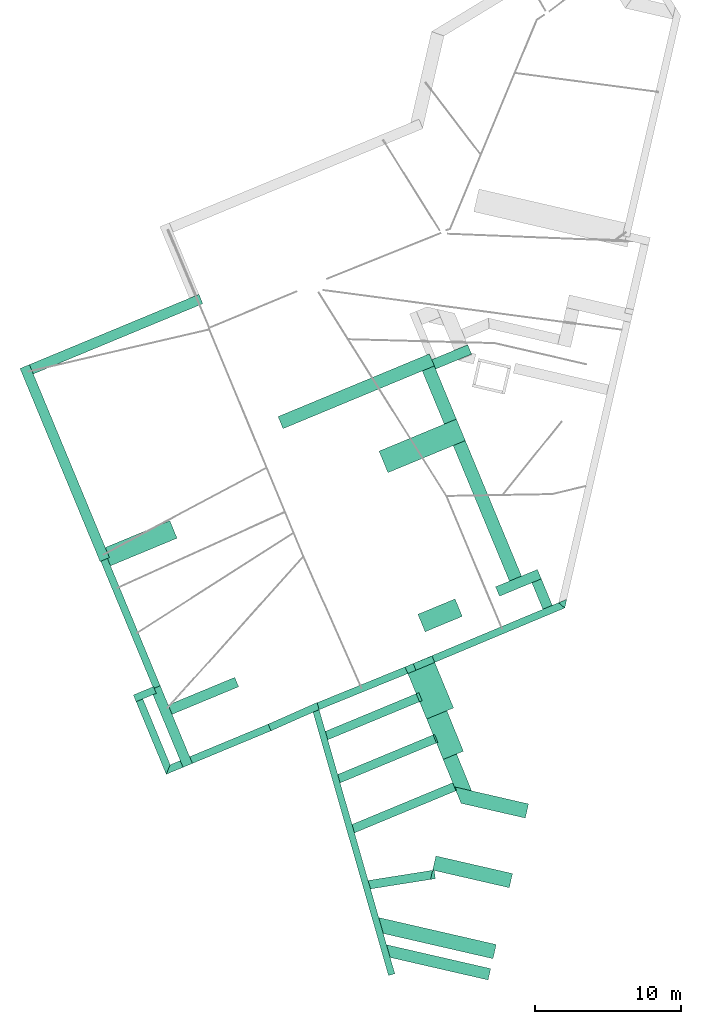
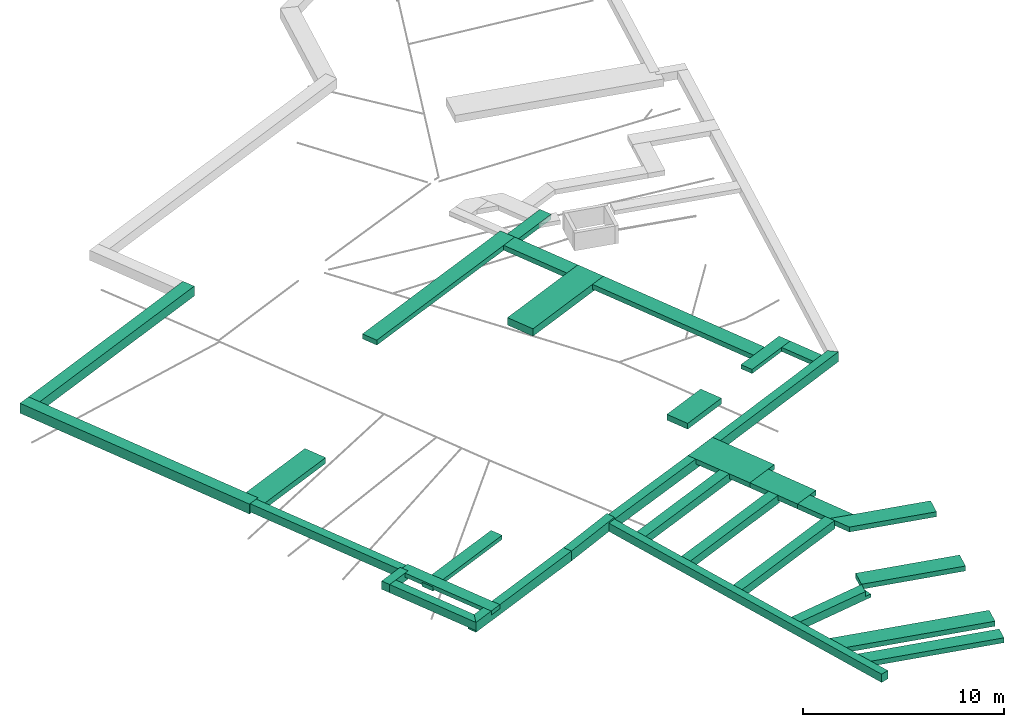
# One storey, part 4 of 6: 31 flow terminals.
"""IFC2X3 building model written with IfcOpenShell, lengths in metres."""

from ifc_helpers import new_model, entity, si_unit, converted_unit, derived_unit, money_unit, direction, frame, origin_with_axes, place, context, subcontext, project, spatial, faceted_brep, material, type_object, element, save


model = new_model("IFC2X3")

# Units and contexts
model_context = context("Model", 3, precision=1e-05, world=origin_with_axes(), true_north=direction((0.0, 1.0)))
body_context = subcontext(model_context, "Body", "Model", "MODEL_VIEW")
ifc_project = project(units=[si_unit("LENGTHUNIT", "METRE"), si_unit("AREAUNIT", "SQUARE_METRE"), si_unit("VOLUMEUNIT", "CUBIC_METRE"), converted_unit("PLANEANGLEUNIT", "DEGREE", entity("IfcPlaneAngleMeasure", 0.0174532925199), si_unit("PLANEANGLEUNIT", "RADIAN"), dimensions=[0, 0, 0, 0, 0, 0, 0]), si_unit("SOLIDANGLEUNIT", "STERADIAN"), money_unit("EUR"), converted_unit("TIMEUNIT", "Year", entity("IfcTimeMeasure", 31556926.0), si_unit("TIMEUNIT", "SECOND"), dimensions=[0, 0, 1, 0, 0, 0, 0]), si_unit("MASSUNIT", "GRAM", prefix="KILO"), si_unit("THERMODYNAMICTEMPERATUREUNIT", "DEGREE_CELSIUS"), si_unit("LUMINOUSINTENSITYUNIT", "LUMEN"), si_unit("ENERGYUNIT", "JOULE", prefix="MEGA"), derived_unit("THERMALCONDUCTANCEUNIT", [(si_unit("POWERUNIT", "WATT"), 1), (si_unit("LENGTHUNIT", "METRE"), -1), (si_unit("THERMODYNAMICTEMPERATUREUNIT", "KELVIN"), -1)]), derived_unit("SPECIFICHEATCAPACITYUNIT", [(si_unit("ENERGYUNIT", "JOULE"), 1), (si_unit("MASSUNIT", "GRAM", prefix="KILO"), -1), (si_unit("THERMODYNAMICTEMPERATUREUNIT", "KELVIN"), -1)]), derived_unit("MASSDENSITYUNIT", [(si_unit("MASSUNIT", "GRAM", prefix="KILO"), 1), (si_unit("VOLUMEUNIT", "CUBIC_METRE"), -1)])], contexts=[model_context])

# Site, building, storey
site_placement = place(None, origin_with_axes())
site = spatial("IfcSite", under=ifc_project, at=site_placement, Name="Site", CompositionType="ELEMENT")
building_placement = place(site_placement, origin_with_axes())
building = spatial("IfcBuilding", under=site, at=building_placement, Name="Bâtiment", CompositionType="ELEMENT")
storey_placement = place(building_placement, frame((0.0, 0.0, -5.7), z_axis=(0.0, 0.0, 1.0), x_axis=(1.0, 0.0, 0.0)))
storey = spatial("IfcBuildingStorey", under=building, at=storey_placement, Name="-2. Etage", CompositionType="ELEMENT", Elevation=-5.7)

# Flow terminals
ifc_material = material(Name="Béton")
electric_appliance_type_1 = type_object("IfcElectricApplianceType", Name="Poutre 1", PredefinedType="WASHINGMACHINE")
flow_terminal_1_placement = place(storey_placement, frame((-19.9392793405, -30.3781514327, 1.95), z_axis=(0.0, 0.0, 1.0), x_axis=(0.923701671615, 0.383112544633, 0.0)))
element("IfcFlowTerminal", 1, at=flow_terminal_1_placement, inside=storey, type_object=electric_appliance_type_1, material=ifc_material, Name="CERES_POUTRE_BETON:(60x50T)", context=body_context, shape_type="Brep", body=[
    faceted_brep([(7.16922511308, -0.0637426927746, 0.0), (7.16922511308, 0.536257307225, 0.0), (7.16922511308, 0.536257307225, 0.2), (7.16922511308, -0.0637426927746, 0.2), (0.153686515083, -0.0637426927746, 0.0), (0.222416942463, 0.536257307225, 0.0), (0.222416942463, 0.536257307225, 0.5), (6.97353076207, 0.536257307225, 0.5), (6.97353076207, 0.536257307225, 0.2), (6.97353076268, -0.0637426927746, 0.2), (6.97353076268, -0.0637426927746, 0.5), (0.153686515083, -0.0637426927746, 0.5)], [[[0, 1, 2, 3]], [[1, 0, 4, 5]], [[2, 1, 5, 6, 7, 8]], [[8, 9, 3, 2]], [[0, 3, 9, 10, 11, 4]], [[11, 6, 5, 4]], [[10, 7, 6, 11]], [[9, 8, 7, 10]]]),
])
electric_appliance_type_2 = type_object("IfcElectricApplianceType", Name="Poutre 2", PredefinedType="WASHINGMACHINE")
flow_terminal_2_placement = place(storey_placement, frame((-19.0911174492, -33.3376369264, 1.95), z_axis=(0.0, 0.0, 1.0), x_axis=(0.923701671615, 0.383112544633, 0.0)))
element("IfcFlowTerminal", 2, at=flow_terminal_2_placement, inside=storey, type_object=electric_appliance_type_2, material=ifc_material, Name="CERES_POUTRE_BETON:(60x50T)", context=body_context, shape_type="Brep", body=[
    faceted_brep([(7.42095446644, -0.0637426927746, 0.0), (7.42095446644, 0.536257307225, 0.0), (7.42095446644, 0.536257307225, 0.2), (7.42095446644, -0.0637426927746, 0.2), (0.153686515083, -0.0637426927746, 0.0), (0.222416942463, 0.536257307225, 0.0), (0.222416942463, 0.536257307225, 0.5), (7.3168736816, 0.536257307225, 0.5), (7.3168736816, 0.536257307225, 0.2), (7.31329162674, -0.0637426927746, 0.2), (7.31329162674, -0.0637426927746, 0.5), (0.153686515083, -0.0637426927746, 0.5)], [[[0, 1, 2, 3]], [[1, 0, 4, 5]], [[2, 1, 5, 6, 7, 8]], [[8, 9, 3, 2]], [[0, 3, 9, 10, 11, 4]], [[11, 6, 5, 4]], [[10, 7, 6, 11]], [[9, 8, 7, 10]]]),
])
electric_appliance_type_3 = type_object("IfcElectricApplianceType", Name="Poutre 3", PredefinedType="WASHINGMACHINE")
flow_terminal_3_placement = place(storey_placement, frame((-18.1073248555, -36.7703777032, 1.95), z_axis=(0.0, 0.0, 1.0), x_axis=(0.923701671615, 0.383112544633, 0.0)))
element("IfcFlowTerminal", 3, at=flow_terminal_3_placement, inside=storey, type_object=electric_appliance_type_3, material=ifc_material, Name="CERES_POUTRE_BETON:(60x50T)", context=body_context, shape_type="Brep", body=[
    faceted_brep([(7.7457537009, -0.0637426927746, 0.0), (7.7457537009, 0.536257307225, 0.0), (7.7457537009, 0.536257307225, 0.2), (7.7457537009, -0.0637426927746, 0.2), (0.153686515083, -0.0637426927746, 0.0), (0.222416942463, 0.536257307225, 0.0), (0.222416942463, 0.536257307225, 0.5), (7.70208858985, 0.536257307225, 0.5), (7.70208858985, 0.536257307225, 0.2), (7.69850653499, -0.0637426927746, 0.2), (7.70026362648, 0.230572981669, 0.2), (7.69850653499, -0.0637426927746, 0.5), (0.153686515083, -0.0637426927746, 0.5), (7.70026362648, 0.230572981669, 0.5)], [[[0, 1, 2, 3]], [[1, 0, 4, 5]], [[2, 1, 5, 6, 7, 8]], [[9, 3, 2, 8, 10]], [[0, 3, 9, 11, 12, 4]], [[12, 6, 5, 4]], [[11, 13, 7, 6, 12]], [[11, 9, 10, 8, 7, 13]]]),
])
electric_appliance_type_4 = type_object("IfcElectricApplianceType", Name="Poutre 4", PredefinedType="WASHINGMACHINE")
flow_terminal_4_placement = place(storey_placement, frame((-17.0043960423, -40.6193691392, 1.95), z_axis=(0.0, 0.0, 1.0), x_axis=(0.987688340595, 0.15643446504, 0.0)))
element("IfcFlowTerminal", 4, at=flow_terminal_4_placement, inside=storey, type_object=electric_appliance_type_4, material=ifc_material, Name="CERES_POUTRE_BETON:(60x50T)", context=body_context, shape_type="Brep", body=[
    faceted_brep([(4.67874512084, -0.0260523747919, 0.0), (4.67874512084, 0.573947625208, 0.0), (4.67874512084, 0.573947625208, 0.2), (4.67874512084, -0.0260523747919, 0.2), (0.164488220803, -0.0260523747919, 0.0), (0.0909043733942, 0.573947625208, 0.0), (0.0909043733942, 0.573947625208, 0.5), (4.57746969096, 0.573947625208, 0.5), (4.57746969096, 0.573947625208, 0.2), (4.33584175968, -0.0260523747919, 0.2), (4.33584175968, -0.0260523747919, 0.5), (0.164488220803, -0.0260523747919, 0.5)], [[[0, 1, 2, 3]], [[1, 0, 4, 5]], [[1, 5, 6, 7, 8, 2]], [[8, 9, 3, 2]], [[4, 0, 3, 9, 10, 11]], [[11, 6, 5, 4]], [[6, 11, 10, 7]], [[9, 8, 7, 10]]]),
])
electric_appliance_type_5 = type_object("IfcElectricApplianceType", Name="IFC Footing Extruded", PredefinedType="WASHINGMACHINE")
flow_terminal_5_placement = place(storey_placement, frame((0.0, 0.0, 2.45), z_axis=(0.0, 0.0, 1.0), x_axis=(1.0, 0.0, 0.0)))
element("IfcFlowTerminal", 5, at=flow_terminal_5_placement, inside=storey, type_object=electric_appliance_type_5, material=ifc_material, Name="Semelle filante:(130x35T)", context=body_context, shape_type="Brep", body=[
    faceted_brep([(-30.6190819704, -15.3329198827, -0.35), (-35.0528499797, -17.171860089, -0.35), (-35.0528499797, -17.171860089, 0.0), (-30.6190819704, -15.3329198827, 0.0), (-30.1210356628, -16.533732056, -0.35), (-34.6933589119, -18.4301391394, -0.35), (-34.9040708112, -17.9221032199, -0.35), (-34.7655155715, -17.8646363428, -0.35), (-34.7655155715, -17.8646363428, 0.0), (-34.9040708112, -17.9221032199, 0.0), (-34.6933589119, -18.4301391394, 0.0), (-30.1210356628, -16.533732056, 0.0)], [[[0, 1, 2, 3]], [[0, 4, 5, 6, 7, 1]], [[1, 7, 8, 2]], [[3, 2, 8, 9, 10, 11]], [[4, 0, 3, 11]], [[5, 4, 11, 10]], [[6, 5, 10, 9]], [[7, 6, 9, 8]]]),
])
flow_terminal_6_placement = place(storey_placement, frame((0.0, 0.0, 2.45), z_axis=(0.0, 0.0, 1.0), x_axis=(1.0, 0.0, 0.0)))
element("IfcFlowTerminal", 6, at=flow_terminal_6_placement, inside=storey, type_object=electric_appliance_type_5, material=ifc_material, Name="Semelle filante:(130x35T)", context=body_context, shape_type="Brep", body=[
    faceted_brep([(-11.0343796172, -20.7009883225, -0.35), (-13.5850973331, -21.758918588, -0.35), (-13.5850973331, -21.758918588, 0.0), (-11.0343796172, -20.7009883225, 0.0), (-10.5363333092, -21.9018004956, -0.35), (-13.0870510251, -22.9597307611, -0.35), (-13.0870510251, -22.9597307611, 0.0), (-10.5363333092, -21.9018004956, 0.0)], [[[0, 1, 2, 3]], [[0, 4, 5, 1]], [[1, 5, 6, 2]], [[3, 2, 6, 7]], [[4, 0, 3, 7]], [[5, 4, 7, 6]]]),
])
flow_terminal_7_placement = place(storey_placement, frame((0.0, 0.0, 2.45), z_axis=(0.0, 0.0, 1.0), x_axis=(1.0, 0.0, 0.0)))
element("IfcFlowTerminal", 7, at=flow_terminal_7_placement, inside=storey, type_object=electric_appliance_type_5, material=ifc_material, Name="Semelle filante:(160x45T)", context=body_context, shape_type="Brep", body=[
    faceted_brep([(-10.9401381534, -8.35095761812, -0.45), (-16.2535940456, -10.5547553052, -0.45), (-16.2535940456, -10.5547553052, 0.0), (-10.9401381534, -8.35095761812, 0.0), (-10.3271580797, -9.82888029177, -0.45), (-15.6406139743, -12.0326779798, -0.45), (-15.6406139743, -12.0326779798, 0.0), (-10.3271580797, -9.82888029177, 0.0)], [[[0, 1, 2, 3]], [[0, 4, 5, 1]], [[1, 5, 6, 2]], [[3, 2, 6, 7]], [[4, 0, 3, 7]], [[5, 4, 7, 6]]]),
])
flow_terminal_8_placement = place(storey_placement, frame((0.0, 0.0, 2.45), z_axis=(0.0, 0.0, 1.0), x_axis=(1.0, 0.0, 0.0)))
element("IfcFlowTerminal", 8, at=flow_terminal_8_placement, inside=storey, type_object=electric_appliance_type_5, material=ifc_material, Name="Semelle filante:(70x25T)", context=body_context, shape_type="Brep", body=[
    faceted_brep([(-31.1095496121, -28.8980047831, -0.25), (-25.8906351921, -26.7334189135, -0.25), (-25.8906351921, -26.7334189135, 0.0), (-31.1095496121, -28.8980047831, 0.0), (-31.3777283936, -28.2514136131, -0.25), (-26.1588139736, -26.0868277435, -0.25), (-26.1588139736, -26.0868277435, 0.0), (-31.3777283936, -28.2514136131, 0.0)], [[[0, 1, 2, 3]], [[0, 4, 5, 1]], [[1, 5, 6, 2]], [[3, 2, 6, 7]], [[4, 0, 3, 7]], [[5, 4, 7, 6]]]),
])
flow_terminal_9_placement = place(storey_placement, frame((0.0, 0.0, 2.45), z_axis=(0.0, 0.0, 1.0), x_axis=(1.0, 0.0, 0.0)))
element("IfcFlowTerminal", 9, at=flow_terminal_9_placement, inside=storey, type_object=electric_appliance_type_5, material=ifc_material, Name="Semelle filante:(70x25T)", context=body_context, shape_type="Brep", body=[
    faceted_brep([(-5.37666552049, -18.6791870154, -0.25), (-8.25111690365, -19.8713883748, -0.25), (-8.25111690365, -19.8713883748, 0.0), (-5.37666552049, -18.6791870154, 0.0), (-5.10848673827, -19.3257781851, -0.25), (-7.98293812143, -20.5179795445, -0.25), (-7.98293812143, -20.5179795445, 0.0), (-5.10848673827, -19.3257781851, 0.0)], [[[0, 1, 2, 3]], [[0, 4, 5, 1]], [[1, 5, 6, 2]], [[3, 2, 6, 7]], [[4, 0, 3, 7]], [[5, 4, 7, 6]]]),
])
flow_terminal_10_placement = place(storey_placement, frame((0.0, 0.0, 2.45), z_axis=(0.0, 0.0, 1.0), x_axis=(1.0, 0.0, 0.0)))
element("IfcFlowTerminal", 10, at=flow_terminal_10_placement, inside=storey, type_object=electric_appliance_type_5, material=ifc_material, Name="Semelle filante:(70x25T)", context=body_context, shape_type="Brep", body=[
    faceted_brep([(-4.35481617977, -21.1429119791, -0.25), (-5.10848673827, -19.3257781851, -0.25), (-5.10848673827, -19.3257781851, 0.0), (-4.35481617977, -21.1429119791, 0.0), (-5.00058045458, -21.4130844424, -0.25), (-5.75507790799, -19.5939569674, -0.25), (-5.75507790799, -19.5939569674, 0.0), (-5.00058045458, -21.4130844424, 0.0)], [[[0, 1, 2, 3]], [[0, 4, 5, 1]], [[1, 5, 6, 2]], [[3, 2, 6, 7]], [[4, 0, 3, 7]], [[5, 4, 7, 6]]]),
])
flow_terminal_11_placement = place(storey_placement, frame((0.0, 0.0, 2.45), z_axis=(0.0, 0.0, 1.0), x_axis=(1.0, 0.0, 0.0)))
element("IfcFlowTerminal", 11, at=flow_terminal_11_placement, inside=storey, type_object=electric_appliance_type_5, material=ifc_material, Name="Semelle filante:(70x30T)", context=body_context, shape_type="Brep", body=[
    faceted_brep([(-12.6325796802, -4.27040457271, -0.3), (-12.364400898, -4.91699574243, -0.3), (-12.364400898, -4.91699574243, 0.0), (-12.6325796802, -4.27040457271, 0.0), (-10.1662962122, -3.24749407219, -0.3), (-9.89811743, -3.89408524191, -0.3), (-9.89811743, -3.89408524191, 0.0), (-10.1662962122, -3.24749407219, 0.0)], [[[0, 1, 2, 3]], [[0, 4, 5, 1]], [[1, 5, 6, 2]], [[3, 2, 6, 7]], [[4, 0, 3, 7]], [[5, 4, 7, 6]]]),
])
flow_terminal_12_placement = place(storey_placement, frame((0.0, 0.0, 2.45), z_axis=(0.0, 0.0, 1.0), x_axis=(1.0, 0.0, 0.0)))
element("IfcFlowTerminal", 12, at=flow_terminal_12_placement, inside=storey, type_object=electric_appliance_type_5, material=ifc_material, Name="Semelle filante:(90x30T)", context=body_context, shape_type="Brep", body=[
    faceted_brep([(-12.7982340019, -3.87100451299, -0.3), (-23.189877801, -8.18102065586, -0.3), (-23.189877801, -8.18102065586, 0.0), (-12.7982340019, -3.87100451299, 0.0), (-12.4534327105, -4.70233601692, -0.3), (-22.8450765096, -9.0123521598, -0.3), (-22.8450765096, -9.0123521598, 0.0), (-12.4534327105, -4.70233601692, 0.0)], [[[0, 1, 2, 3]], [[0, 4, 5, 1]], [[1, 5, 6, 2]], [[3, 2, 6, 7]], [[4, 0, 3, 7]], [[5, 4, 7, 6]]]),
])
flow_terminal_13_placement = place(storey_placement, frame((0.0, 0.0, 2.45), z_axis=(0.0, 0.0, 1.0), x_axis=(1.0, 0.0, 0.0)))
element("IfcFlowTerminal", 13, at=flow_terminal_13_placement, inside=storey, type_object=electric_appliance_type_5, material=ifc_material, Name="Semelle filante:(100x30T)", context=body_context, shape_type="Brep", body=[
    faceted_brep([(-10.6212829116, -34.739393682, -0.3), (-6.20942786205, -35.7527043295, -0.3), (-6.20942786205, -35.7527043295, 0.0), (-10.6212829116, -34.739393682, 0.0), (-10.9717808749, -33.8798625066, -0.3), (-11.0829138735, -33.6073294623, -0.3), (-9.89137039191, -33.8810020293, -0.3), (-5.98557727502, -34.7780808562, -0.3), (-5.98557727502, -34.7780808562, 0.0), (-9.89137039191, -33.8810020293, 0.0), (-11.0829138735, -33.6073294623, 0.0), (-10.9717808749, -33.8798625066, 0.0)], [[[0, 1, 2, 3]], [[0, 4, 5, 6, 7, 1]], [[1, 7, 8, 2]], [[3, 2, 8, 9, 10, 11]], [[4, 0, 3, 11]], [[5, 4, 11, 10]], [[6, 5, 10, 9]], [[7, 6, 9, 8]]]),
])
flow_terminal_14_placement = place(storey_placement, frame((0.0, 0.0, 2.45), z_axis=(0.0, 0.0, 1.0), x_axis=(1.0, 0.0, 0.0)))
element("IfcFlowTerminal", 14, at=flow_terminal_14_placement, inside=storey, type_object=electric_appliance_type_5, material=ifc_material, Name="Semelle filante:(100x30T)", context=body_context, shape_type="Brep", body=[
    faceted_brep([(-7.08437790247, -39.5621508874, -0.3), (-12.3472836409, -38.3533717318, -0.3), (-12.3472836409, -38.3533717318, 0.0), (-7.08437790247, -39.5621508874, 0.0), (-7.3082284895, -40.5367743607, -0.3), (-12.571134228, -39.3279952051, -0.3), (-12.571134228, -39.3279952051, 0.0), (-7.3082284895, -40.5367743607, 0.0)], [[[0, 1, 2, 3]], [[0, 4, 5, 1]], [[1, 5, 6, 2]], [[3, 2, 6, 7]], [[4, 0, 3, 7]], [[5, 4, 7, 6]]]),
])
flow_terminal_15_placement = place(storey_placement, frame((0.0, 0.0, 2.45), z_axis=(0.0, 0.0, 1.0), x_axis=(1.0, 0.0, 0.0)))
element("IfcFlowTerminal", 15, at=flow_terminal_15_placement, inside=storey, type_object=electric_appliance_type_5, material=ifc_material, Name="Semelle filante:(100x30T)", context=body_context, shape_type="Brep", body=[
    faceted_brep([(-8.20363084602, -44.4352682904, -0.3), (-12.4919131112, -43.4503397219, -0.3), (-12.4919131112, -43.4503397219, 0.0), (-8.20363084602, -44.4352682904, 0.0), (-8.42748143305, -45.4098917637, -0.3), (-15.9608102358, -43.6796440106, -0.3), (-16.2755828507, -42.5813100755, -0.3), (-13.4665365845, -43.2264891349, -0.3), (-13.4665365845, -43.2264891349, 0.0), (-16.2755828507, -42.5813100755, 0.0), (-15.9608102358, -43.6796440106, 0.0), (-8.42748143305, -45.4098917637, 0.0)], [[[0, 1, 2, 3]], [[0, 4, 5, 6, 7, 1]], [[1, 7, 8, 2]], [[3, 2, 8, 9, 10, 11]], [[4, 0, 3, 11]], [[5, 4, 11, 10]], [[6, 5, 10, 9]], [[7, 6, 9, 8]]]),
])
flow_terminal_16_placement = place(storey_placement, frame((0.0, 0.0, 2.45), z_axis=(0.0, 0.0, 1.0), x_axis=(1.0, 0.0, 0.0)))
element("IfcFlowTerminal", 16, at=flow_terminal_16_placement, inside=storey, type_object=electric_appliance_type_5, material=ifc_material, Name="Semelle filante:(50x50T) ex", context=body_context, shape_type="Brep", body=[
    faceted_brep([(-35.3659216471, -18.1136594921, -0.5), (-31.7391287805, -26.8580211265, -0.5), (-31.7391287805, -26.8580211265, 0.0), (-35.3659216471, -18.1136594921, 0.0), (-34.9040708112, -17.9221032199, -0.5), (-31.2772779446, -26.6664648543, -0.5), (-31.2772779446, -26.6664648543, 0.0), (-34.9040708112, -17.9221032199, 0.0)], [[[0, 1, 2, 3]], [[0, 4, 5, 1]], [[1, 5, 6, 2]], [[3, 2, 6, 7]], [[4, 0, 3, 7]], [[5, 4, 7, 6]]]),
])
flow_terminal_17_placement = place(storey_placement, frame((0.0, 0.0, 2.45), z_axis=(0.0, 0.0, 1.0), x_axis=(1.0, 0.0, 0.0)))
element("IfcFlowTerminal", 17, at=flow_terminal_17_placement, inside=storey, type_object=electric_appliance_type_5, material=ifc_material, Name="Semelle filante:(70x60T) ex", context=body_context, shape_type="Brep", body=[
    faceted_brep([(-40.9093250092, -4.87877325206, -0.6), (-35.4121067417, -18.1328151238, -0.6), (-35.4121067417, -18.1328151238, 0.0), (-40.9093250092, -4.87877325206, 0.0), (-40.262733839, -4.61059447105, -0.6), (-34.7655155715, -17.8646363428, -0.6), (-34.7655155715, -17.8646363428, 0.0), (-40.262733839, -4.61059447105, 0.0)], [[[0, 1, 2, 3]], [[0, 4, 5, 1]], [[1, 5, 6, 2]], [[3, 2, 6, 7]], [[4, 0, 3, 7]], [[5, 4, 7, 6]]]),
])
flow_terminal_18_placement = place(storey_placement, frame((0.0, 0.0, 2.45), z_axis=(0.0, 0.0, 1.0), x_axis=(1.0, 0.0, 0.0)))
element("IfcFlowTerminal", 18, at=flow_terminal_18_placement, inside=storey, type_object=electric_appliance_type_5, material=ifc_material, Name="Semelle filante:(70x60T) ex", context=body_context, shape_type="Brep", body=[
    faceted_brep([(-28.6210752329, 0.217875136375, -0.6), (-29.2676664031, -0.0503036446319, -0.6), (-29.2676664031, -0.0503036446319, 0.0), (-28.6210752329, 0.217875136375, 0.0), (-28.3528956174, -0.428715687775, -0.6), (-39.994555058, -5.25718564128, -0.6), (-40.262733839, -4.61059447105, -0.6), (-40.262733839, -4.61059447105, 0.0), (-39.994555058, -5.25718564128, 0.0), (-28.3528956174, -0.428715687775, 0.0)], [[[0, 1, 2, 3]], [[0, 4, 5, 6, 1]], [[1, 6, 7, 2]], [[3, 2, 7, 8, 9]], [[4, 0, 3, 9]], [[5, 4, 9, 8]], [[6, 5, 8, 7]]]),
])
flow_terminal_19_placement = place(storey_placement, frame((0.0, 0.0, 2.45), z_axis=(0.0, 0.0, 1.0), x_axis=(1.0, 0.0, 0.0)))
element("IfcFlowTerminal", 19, at=flow_terminal_19_placement, inside=storey, type_object=electric_appliance_type_5, material=ifc_material, Name="Semelle filante:(80x30T)", context=body_context, shape_type="Brep", body=[
    faceted_brep([(-8.58417684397, -46.092128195, -0.3), (-15.7404694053, -44.4484777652, -0.3), (-15.7404694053, -44.4484777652, 0.0), (-8.58417684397, -46.092128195, 0.0), (-8.76325731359, -46.8718269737, -0.3), (-15.4886513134, -45.3271449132, -0.3), (-15.4886513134, -45.3271449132, 0.0), (-8.76325731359, -46.8718269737, 0.0)], [[[0, 1, 2, 3]], [[0, 4, 5, 1]], [[1, 5, 6, 2]], [[3, 2, 6, 7]], [[4, 0, 3, 7]], [[5, 4, 7, 6]]]),
])
flow_terminal_20_placement = place(storey_placement, frame((0.0, 0.0, 2.45), z_axis=(0.0, 0.0, 1.0), x_axis=(1.0, 0.0, 0.0)))
element("IfcFlowTerminal", 20, at=flow_terminal_20_placement, inside=storey, type_object=electric_appliance_type_5, material=ifc_material, Name="Semelle filante:(100x30T) ex", context=body_context, shape_type="Brep", body=[
    faceted_brep([(-11.8499233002, -31.7263812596, -0.3), (-11.1983396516, -33.3242691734, -0.3), (-11.1983396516, -33.3242691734, 0.0), (-11.8499233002, -31.7263812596, 0.0), (-10.9239509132, -31.3487900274, -0.3), (-9.89137039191, -33.8810020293, -0.3), (-11.0829138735, -33.6073294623, -0.3), (-11.0829138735, -33.6073294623, 0.0), (-9.89137039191, -33.8810020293, 0.0), (-10.9239509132, -31.3487900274, 0.0)], [[[0, 1, 2, 3]], [[0, 4, 5, 6, 1]], [[1, 6, 7, 2]], [[3, 2, 7, 8, 9]], [[4, 0, 3, 9]], [[5, 4, 9, 8]], [[6, 5, 8, 7]]]),
])
flow_terminal_21_placement = place(storey_placement, frame((0.0, 0.0, 2.45), z_axis=(0.0, 0.0, 1.0), x_axis=(1.0, 0.0, 0.0)))
element("IfcFlowTerminal", 21, at=flow_terminal_21_placement, inside=storey, type_object=electric_appliance_type_5, material=ifc_material, Name="Semelle filante:(150x30T) ex", context=body_context, shape_type="Brep", body=[
    faceted_brep([(-10.4609647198, -31.1599944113, -0.3), (-11.5949782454, -28.3790368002, -0.3), (-11.5949782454, -28.3790368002, 0.0), (-10.4609647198, -31.1599944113, 0.0), (-10.9239509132, -31.3487900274, -0.3), (-11.8499233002, -31.7263812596, -0.3), (-12.3113971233, -30.5947023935, -0.3), (-12.5379559, -30.0391090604, -0.3), (-12.9822461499, -28.9495697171, -0.3), (-12.9822461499, -28.9495697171, 0.0), (-12.5379559, -30.0391090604, 0.0), (-12.3113971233, -30.5947023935, 0.0), (-11.8499233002, -31.7263812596, 0.0), (-10.9239509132, -31.3487900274, 0.0)], [[[0, 1, 2, 3]], [[0, 4, 5, 6, 7, 8, 1]], [[1, 8, 9, 2]], [[3, 2, 9, 10, 11, 12, 13]], [[4, 0, 3, 13]], [[5, 4, 13, 12]], [[6, 5, 12, 11]], [[7, 6, 11, 10]], [[8, 7, 10, 9]]]),
])
flow_terminal_22_placement = place(storey_placement, frame((0.0, 0.0, 2.45), z_axis=(0.0, 0.0, 1.0), x_axis=(1.0, 0.0, 0.0)))
element("IfcFlowTerminal", 22, at=flow_terminal_22_placement, inside=storey, type_object=electric_appliance_type_5, material=ifc_material, Name="Semelle filante:(200x30T) ex", context=body_context, shape_type="Brep", body=[
    faceted_brep([(-14.4677232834, -25.3680171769, -0.3), (-14.2761635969, -25.829876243, -0.3), (-14.2761635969, -25.829876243, 0.0), (-14.4677232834, -25.3680171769, 0.0), (-13.9114616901, -25.1411858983, -0.3), (-12.6157455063, -24.6128212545, -0.3), (-12.4290417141, -25.0629725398, -0.3), (-11.1325556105, -28.1888591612, -0.3), (-11.5949782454, -28.3790368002, -0.3), (-12.9822461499, -28.9495697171, -0.3), (-13.4733966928, -27.765383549, -0.3), (-13.7032642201, -27.2111625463, -0.3), (-13.7032642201, -27.2111625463, 0.0), (-13.4733966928, -27.765383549, 0.0), (-12.9822461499, -28.9495697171, 0.0), (-11.5949782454, -28.3790368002, 0.0), (-11.1325556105, -28.1888591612, 0.0), (-12.4290417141, -25.0629725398, 0.0), (-12.6157455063, -24.6128212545, 0.0), (-13.9114616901, -25.1411858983, 0.0)], [[[0, 1, 2, 3]], [[0, 4, 5, 6, 7, 8, 9, 10, 11, 1]], [[1, 11, 12, 2]], [[3, 2, 12, 13, 14, 15, 16, 17, 18, 19]], [[4, 0, 3, 19]], [[5, 4, 19, 18]], [[6, 5, 18, 17]], [[7, 6, 17, 16]], [[8, 7, 16, 15]], [[9, 8, 15, 14]], [[10, 9, 14, 13]], [[11, 10, 13, 12]]]),
])
flow_terminal_23_placement = place(storey_placement, frame((0.0, 0.0, 2.45), z_axis=(0.0, 0.0, 1.0), x_axis=(1.0, 0.0, 0.0)))
element("IfcFlowTerminal", 23, at=flow_terminal_23_placement, inside=storey, type_object=electric_appliance_type_5, material=ifc_material, Name="Semelle filante:(50x50T) ex", context=body_context, shape_type="Brep", body=[
    faceted_brep([(-30.5964036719, -32.0928722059, -0.4), (-32.4729781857, -27.5683661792, -0.4), (-32.4729781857, -27.5683661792, 0.1), (-30.5964036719, -32.0928722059, 0.1), (-30.8667112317, -32.7462479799, -0.4), (-31.0582675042, -32.284397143, -0.4), (-32.9348290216, -27.7599224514, -0.4), (-32.9348290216, -27.7599224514, 0.1), (-31.0582675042, -32.284397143, 0.1), (-30.8667112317, -32.7462479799, 0.1)], [[[0, 1, 2, 3]], [[0, 4, 5, 6, 1]], [[1, 6, 7, 2]], [[3, 2, 7, 8, 9]], [[4, 0, 3, 9]], [[5, 4, 9, 8]], [[6, 5, 8, 7]]]),
])
flow_terminal_24_placement = place(storey_placement, frame((0.0, 0.0, 2.45), z_axis=(0.0, 0.0, 1.0), x_axis=(1.0, 0.0, 0.0)))
element("IfcFlowTerminal", 24, at=flow_terminal_24_placement, inside=storey, type_object=electric_appliance_type_5, material=ifc_material, Name="Semelle filante:(50x50T) ex", context=body_context, shape_type="Brep", body=[
    faceted_brep([(-20.9230394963, -27.9983639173, -0.5), (-20.7839703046, -28.483617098, -0.5), (-20.7839703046, -28.483617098, 0.0), (-20.9230394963, -27.9983639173, 0.0), (-20.5076520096, -27.8143800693, -0.5), (-20.5033955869, -27.829231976, -0.5), (-20.3648369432, -28.312703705, -0.5), (-19.9392793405, -29.7975989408, -0.5), (-19.7728982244, -30.3781514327, -0.5), (-19.0911174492, -32.7570844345, -0.5), (-18.924736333, -33.3376369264, -0.5), (-18.1073248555, -36.1898252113, -0.5), (-17.9409437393, -36.7703777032, -0.5), (-17.0043960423, -40.0382671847, -0.5), (-16.8378574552, -40.6193691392, -0.5), (-15.1685129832, -46.4442014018, -0.5), (-15.6010984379, -46.5681764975, -0.5), (-15.6010984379, -46.5681764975, 0.0), (-15.1685129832, -46.4442014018, 0.0), (-16.8378574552, -40.6193691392, 0.0), (-17.0043960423, -40.0382671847, 0.0), (-17.9409437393, -36.7703777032, 0.0), (-18.1073248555, -36.1898252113, 0.0), (-18.924736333, -33.3376369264, 0.0), (-19.0911174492, -32.7570844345, 0.0), (-19.7728982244, -30.3781514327, 0.0), (-19.9392793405, -29.7975989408, 0.0), (-20.3648369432, -28.312703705, 0.0), (-20.5033955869, -27.829231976, 0.0), (-20.5076520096, -27.8143800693, 0.0)], [[[0, 1, 2, 3]], [[0, 4, 5, 6, 7, 8, 9, 10, 11, 12, 13, 14, 15, 16, 1]], [[1, 16, 17, 2]], [[3, 2, 17, 18, 19, 20, 21, 22, 23, 24, 25, 26, 27, 28, 29]], [[4, 0, 3, 29]], [[5, 4, 29, 28]], [[6, 5, 28, 27]], [[7, 6, 27, 26]], [[8, 7, 26, 25]], [[9, 8, 25, 24]], [[10, 9, 24, 23]], [[11, 10, 23, 22]], [[12, 11, 22, 21]], [[13, 12, 21, 20]], [[14, 13, 20, 19]], [[15, 14, 19, 18]], [[16, 15, 18, 17]]]),
])
electric_appliance_type_6 = type_object("IfcElectricApplianceType", Name="Empattement 6", PredefinedType="WASHINGMACHINE")
flow_terminal_25_placement = place(storey_placement, frame((-33.1263852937, -27.7599224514, 2.05), z_axis=(0.0, 0.0, 1.0), x_axis=(1.0, 0.0, 0.0)))
element("IfcFlowTerminal", 25, at=flow_terminal_25_placement, inside=storey, type_object=electric_appliance_type_6, material=ifc_material, Name="Semelle filante:(50x50T) ex", context=body_context, shape_type="Brep", body=[
    faceted_brep([(1.57710880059, 0.574668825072, 0.5), (1.57710880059, 0.574668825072, 0.25), (1.57710880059, 0.574668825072, 0.0), (1.43344159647, 0.92105695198, 0.0), (1.43344159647, 0.92105695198, 0.25), (1.43344159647, 0.92105695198, 0.4), (1.38555252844, 1.03651966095, 0.4), (1.38555252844, 1.03651966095, 0.5), (1.43344159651, 0.921056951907, 0.5), (1.34618338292, 0.478890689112, 0.5), (0.653407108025, 0.191556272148, 0.5), (0.191556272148, 0.0, 0.5), (0.191556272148, 0.0, 0.0), (0.653407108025, 0.191556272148, 0.0), (0.0, 0.461850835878, 0.0), (1.33936744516, 1.01736403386, 0.0), (1.3872565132, 0.901901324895, 0.0), (1.3872565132, 0.901901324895, 0.4), (1.33936744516, 1.01736403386, 0.4), (0.0, 0.461850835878, 0.5)], [[[0, 1, 2, 3, 4, 5, 6, 7, 8]], [[2, 1, 0, 9, 10, 11, 12, 13]], [[2, 13, 12, 14, 15, 16, 3]], [[16, 17, 5, 4, 3]], [[17, 18, 6, 5]], [[19, 7, 6, 18, 15, 14]], [[11, 10, 9, 0, 8, 7, 19]], [[11, 19, 14, 12]], [[18, 17, 16, 15]]]),
])
electric_appliance_type_7 = type_object("IfcElectricApplianceType", Name="Empattement 8", PredefinedType="WASHINGMACHINE")
flow_terminal_26_placement = place(storey_placement, frame((-31.0582675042, -32.7462479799, 1.95), z_axis=(0.0, 0.0, 1.0), x_axis=(1.0, 0.0, 0.0)))
element("IfcFlowTerminal", 26, at=flow_terminal_26_placement, inside=storey, type_object=electric_appliance_type_7, material=ifc_material, Name="Semelle filante:(50x60T) ex", context=body_context, shape_type="Brep", body=[
    faceted_brep([(0.46186383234, 0.653375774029, 0.6), (0.191556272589, 0.0, 0.6), (1.34621587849, 0.478812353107, 0.6), (1.15465960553, 0.940663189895, 0.6), (0.46186383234, 0.653375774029, 0.1), (0.191556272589, 0.0, 0.1), (0.191556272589, 0.0, 0.0), (7.38730247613, 2.98392024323, 0.0), (7.38730247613, 2.98392024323, 0.6), (1.99282524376, 0.74694726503, 0.6), (1.99282524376, 0.74694726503, 0.35), (1.34621587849, 0.478812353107, 0.35), (1.15465960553, 0.940663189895, 0.35), (7.1902682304, 3.44349948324, 0.0), (0.0, 0.461850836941, 0.0), (0.0, 0.461850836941, 0.1), (1.80126897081, 1.20879810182, 0.35), (1.80126897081, 1.20879810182, 0.6), (7.1902682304, 3.44349948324, 0.6)], [[[0, 1, 2, 3]], [[4, 5, 1, 0]], [[6, 7, 8, 9, 10, 11, 2, 1, 5]], [[11, 12, 3, 2]], [[13, 14, 15, 4, 0, 3, 12, 16, 17, 18]], [[5, 4, 15]], [[14, 13, 7, 6]], [[18, 8, 7, 13]], [[8, 18, 17, 9]], [[16, 10, 9, 17]], [[10, 16, 12, 11]], [[14, 6, 5, 15]]]),
])
electric_appliance_type_8 = type_object("IfcElectricApplianceType", Name="Empattement 9", PredefinedType="WASHINGMACHINE")
flow_terminal_27_placement = place(storey_placement, frame((-23.8679992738, -29.7623277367, 1.95), z_axis=(0.0, 0.0, 1.0), x_axis=(1.0, 0.0, 0.0)))
element("IfcFlowTerminal", 27, at=flow_terminal_27_placement, inside=storey, type_object=electric_appliance_type_8, material=ifc_material, Name="Semelle filante:(50x60T) ex", context=body_context, shape_type="Brep", body=[
    faceted_brep([(3.36034726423, 1.94794766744, 0.6), (0.0, 0.459579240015, 0.6), (0.197034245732, 0.0, 0.6), (3.49941645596, 1.46269448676, 0.6), (3.36034726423, 1.94794766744, 0.5), (2.94495977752, 1.76396381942, 0.5), (2.94495977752, 1.76396381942, 0.0), (0.0, 0.459579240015, 0.0), (0.197034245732, 0.0, 0.0), (3.08402896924, 1.27871063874, 0.0), (3.08402896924, 1.27871063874, 0.5), (3.49941645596, 1.46269448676, 0.5)], [[[0, 1, 2, 3]], [[1, 0, 4, 5, 6, 7]], [[2, 1, 7, 8]], [[3, 2, 8, 9, 10, 11]], [[0, 3, 11, 4]], [[10, 5, 4, 11]], [[5, 10, 9, 6]], [[8, 7, 6, 9]]]),
])
electric_appliance_type_9 = type_object("IfcElectricApplianceType", Name="Empattement 10", PredefinedType="WASHINGMACHINE")
flow_terminal_28_placement = place(storey_placement, frame((-20.7864844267, -28.40765559, 1.85), z_axis=(0.0, 0.0, 1.0), x_axis=(1.0, 0.0, 0.0)))
element("IfcFlowTerminal", 28, at=flow_terminal_28_placement, inside=storey, type_object=electric_appliance_type_9, material=ifc_material, Name="Semelle filante:(50x60T) ex", context=body_context, shape_type="Brep", body=[
    faceted_brep([(0.0, 0.462986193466, 0.0), (0.188795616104, 0.0, 0.0), (0.188795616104, 0.0, 0.1), (0.186534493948, 0.00554498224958, 0.1), (0.0, 0.462986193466, 0.1), (6.87502273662, 3.26646969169, 0.0), (7.06591416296, 2.80433812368, 0.0), (7.06591416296, 2.80433812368, 0.3), (6.51032082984, 2.57777934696, 0.3), (6.51032082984, 2.57777934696, 0.6), (0.421647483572, 0.094951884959, 0.6), (0.421647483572, 0.094951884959, 0.1), (0.417901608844, 0.108022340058, 0.1), (0.283088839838, 0.578423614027, 0.1), (0.283088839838, 0.578423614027, 0.6), (6.31876114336, 3.03963841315, 0.6), (6.31876114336, 3.03963841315, 0.3), (6.87502273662, 3.26646969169, 0.3), (0.417901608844, 0.108022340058, 0.6)], [[[0, 1, 2, 3, 4]], [[1, 0, 5, 6]], [[1, 6, 7, 8, 9, 10, 11, 2]], [[2, 11, 12, 13, 4, 3]], [[5, 0, 4, 13, 14, 15, 16, 17]], [[6, 5, 17, 7]], [[16, 8, 7, 17]], [[8, 16, 15, 9]], [[15, 14, 18, 10, 9]], [[11, 10, 18, 14, 13, 12]]]),
])
electric_appliance_type_10 = type_object("IfcElectricApplianceType", Name="Empattement 11", PredefinedType="WASHINGMACHINE")
flow_terminal_29_placement = place(storey_placement, frame((-13.9114616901, -25.6033174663, 1.85), z_axis=(0.0, 0.0, 1.0), x_axis=(1.0, 0.0, 0.0)))
element("IfcFlowTerminal", 29, at=flow_terminal_29_placement, inside=storey, type_object=electric_appliance_type_10, material=ifc_material, Name="Semelle filante:(50x60T) ex", context=body_context, shape_type="Brep", body=[
    faceted_brep([(8.91088123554, 4.19023302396, 0.6), (0.0, 0.462131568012, 0.6), (1.29571618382, 0.990496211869, 0.6), (1.48241997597, 0.540344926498, 0.6), (10.4146282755, 4.27736912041, 0.6), (9.9850974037, 4.63965960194, 0.6), (9.55664551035, 4.46040548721, 0.6), (10.5530827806, 4.87729121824, 0.0), (0.0, 0.462131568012, 0.0), (0.0, 0.462131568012, 0.3), (9.9850974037, 4.63965960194, 0.1), (10.5530827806, 4.87729121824, 0.1), (1.29571618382, 0.990496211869, 0.3), (1.48241997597, 0.540344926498, 0.3), (0.190891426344, 0.0, 0.0), (10.4146282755, 4.27736912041, 0.0), (10.4146282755, 4.27736912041, 0.1), (0.190891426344, 0.0, 0.3)], [[[0, 1, 2, 3, 4, 5, 6]], [[7, 8, 9, 1, 0, 6, 5, 10, 11]], [[12, 2, 1, 9]], [[2, 12, 13, 3]], [[14, 15, 16, 4, 3, 13, 17]], [[16, 10, 5, 4]], [[15, 14, 8, 7]], [[8, 14, 17, 9]], [[10, 16, 11]], [[15, 7, 11, 16]], [[12, 9, 17, 13]]]),
])
electric_appliance_type_11 = type_object("IfcElectricApplianceType", Name="Empattement 12", PredefinedType="WASHINGMACHINE")
flow_terminal_30_placement = place(storey_placement, frame((-31.7802019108, -32.2674356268, 2.3), z_axis=(0.0, 0.0, 1.0), x_axis=(1.0, 0.0, 0.0)))
element("IfcFlowTerminal", 30, at=flow_terminal_30_placement, inside=storey, type_object=electric_appliance_type_11, material=ifc_material, Name="Semelle filante:(70x25T)", context=body_context, shape_type="Brep", body=[
    faceted_brep([(0.502923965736, 5.60097077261, 0.25), (0.502923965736, 5.60097077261, 0.15), (0.502923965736, 5.60097077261, 0.0), (0.0872582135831, 5.42857012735, 0.0), (0.087258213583, 5.42857012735, 0.15), (0.087258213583, 5.42857012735, 0.25), (2.71475965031, 0.268134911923, 0.25), (2.71475965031, 0.268134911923, 0.0), (2.52320337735, 0.729985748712, 0.0), (1.31724346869, 3.63760962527, 0.0), (1.31724346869, 3.63760962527, 0.15), (1.04906468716, 4.28420079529, 0.15), (1.04906468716, 4.28420079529, 0.0), (0.402473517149, 4.01602201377, 0.0), (0.0, 4.98640386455, 0.0), (0.230925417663, 5.08218200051, 0.0), (0.230925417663, 5.08218200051, 0.25), (0.0, 4.98640386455, 0.25), (2.06815028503, 0.0, 0.25), (2.06815028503, 0.0, 0.0), (1.87659401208, 0.461850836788, 0.0), (0.67065229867, 3.36943084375, 0.0), (0.67065229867, 3.36943084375, 0.15), (0.402473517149, 4.01602201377, 0.15)], [[[0, 1, 2, 3, 4, 5]], [[0, 6, 7, 8, 9, 10, 11, 12, 2, 1]], [[12, 13, 14, 15, 3, 2]], [[15, 16, 5, 4, 3]], [[6, 0, 5, 16, 17, 18]], [[6, 18, 19, 7]], [[7, 19, 20, 21, 9, 8]], [[22, 10, 9, 21]], [[23, 11, 10, 22]], [[11, 23, 13, 12]], [[19, 18, 17, 14, 13, 23, 22, 21, 20]], [[16, 15, 14, 17]]]),
])
electric_appliance_type_12 = type_object("IfcElectricApplianceType", Name="Empattement 13", PredefinedType="WASHINGMACHINE")
flow_terminal_31_placement = place(storey_placement, frame((0.0, 0.0, 2.45), z_axis=(0.0, 0.0, 1.0), x_axis=(1.0, 0.0, 0.0)))
element("IfcFlowTerminal", 31, at=flow_terminal_31_placement, inside=storey, type_object=electric_appliance_type_12, material=ifc_material, Name="Semelle filante:(90x30T)", context=body_context, shape_type="Brep", body=[
    faceted_brep([(-6.468586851, -19.1320699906, -0.3), (-10.3271580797, -9.82888029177, -0.3), (-10.3271580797, -9.82888029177, 0.0), (-6.468586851, -19.1320699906, 0.0), (-7.29991835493, -19.4768712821, -0.3), (-11.1584895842, -10.1736815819, -0.3), (-11.1584895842, -10.1736815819, 0.0), (-7.29991835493, -19.4768712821, 0.0)], [[[0, 1, 2, 3]], [[0, 4, 5, 1]], [[1, 5, 6, 2]], [[3, 2, 6, 7]], [[4, 0, 3, 7]], [[5, 4, 7, 6]]]),
    faceted_brep([(-10.9401381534, -8.35095761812, -0.3), (-12.364400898, -4.91699574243, -0.3), (-12.364400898, -4.91699574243, 0.0), (-10.9401381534, -8.35095761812, 0.0), (-11.7714696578, -8.69575890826, -0.3), (-13.2847642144, -5.04713730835, -0.3), (-12.4534327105, -4.70233601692, -0.3), (-12.4534327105, -4.70233601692, 0.0), (-13.2847642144, -5.04713730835, 0.0), (-11.7714696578, -8.69575890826, 0.0)], [[[0, 1, 2, 3]], [[0, 4, 5, 6, 1]], [[1, 6, 7, 2]], [[3, 2, 7, 8, 9]], [[4, 0, 3, 9]], [[5, 4, 9, 8]], [[6, 5, 8, 7]]]),
])

save(model, "model.ifc")
